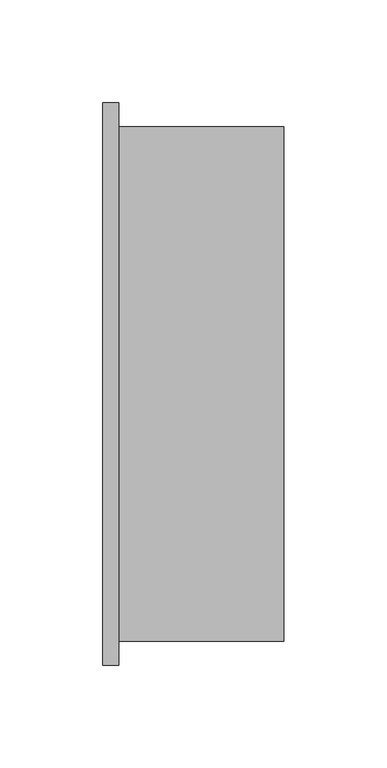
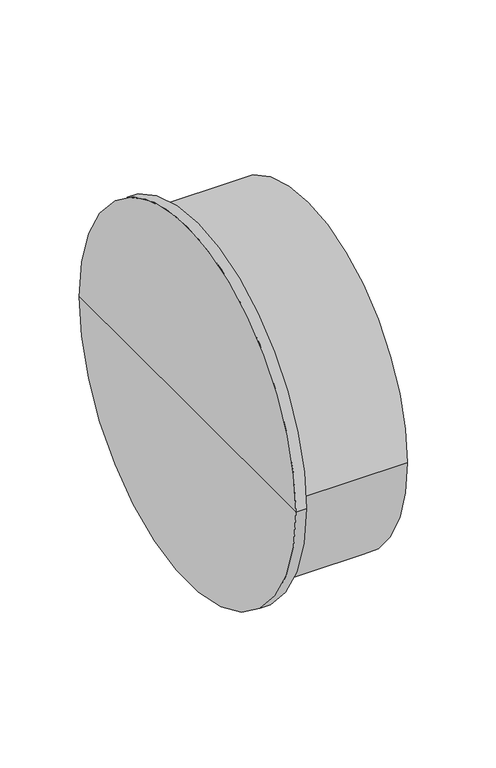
"""IFC4 building model written with IfcOpenShell, lengths in millimetres: pipe fitting geometry, OSMA_KG2000_PPKGM : Hrdlová zátka."""

from ifc_helpers import new_model, si_unit, frame, origin, place, context, project, spatial, circle_curve, source, transform, mapped, element, save
from ifc_brep_helpers import plane_surface, cylinder_surface, advanced_brep


def pipe_fitting_337543ad(model_context):
    return source(origin(), model_context, "Body", "AdvancedBrep", [
        advanced_brep(
        [(88.0, -125.0, 0.0), (88.0, 125.0, 0.0), (88.0, 0.0, 0.0), (7.7, -125.0, 0.0), (7.7, 125.0, 0.0), (7.7, -136.7, 0.0), (7.7, 136.7, 0.0), (0.0, -136.7, 0.0), (0.0, 136.7, 0.0), (0.0, 0.0, 0.0)],
        [
            (0, 1, circle_curve(frame((88.0, 0.0, 0.0), z_axis=(1.0, 0.0, 0.0), x_axis=(0.0, 1.0, 0.0)), 125.0)),
            (1, 2),
            (2, 0),
            (1, 0, circle_curve(frame((88.0, 0.0, 0.0), z_axis=(1.0, 0.0, 0.0), x_axis=(0.0, 1.0, 0.0)), 125.0)),
            (3, 4, circle_curve(frame((7.7, 0.0, 0.0), z_axis=(1.0, 0.0, 0.0), x_axis=(0.0, 1.0, 0.0)), 125.0)),
            (4, 1),
            (0, 3),
            (4, 3, circle_curve(frame((7.7, 0.0, 0.0), z_axis=(1.0, 0.0, 0.0), x_axis=(0.0, 1.0, 0.0)), 125.0)),
            (5, 6, circle_curve(frame((7.7, 0.0, 0.0), z_axis=(1.0, 0.0, 0.0), x_axis=(0.0, 1.0, 0.0)), 136.7)),
            (6, 4),
            (3, 5),
            (6, 5, circle_curve(frame((7.7, 0.0, 0.0), z_axis=(1.0, 0.0, 0.0), x_axis=(0.0, 1.0, 0.0)), 136.7)),
            (7, 8, circle_curve(frame((0.0, 0.0, 0.0), z_axis=(1.0, 0.0, 0.0), x_axis=(0.0, 1.0, 0.0)), 136.7)),
            (8, 6),
            (5, 7),
            (8, 7, circle_curve(frame((0.0, 0.0, 0.0), z_axis=(1.0, 0.0, 0.0), x_axis=(0.0, 1.0, 0.0)), 136.7)),
            (9, 8),
            (7, 9),
        ],
        [
            plane_surface(frame((88.0, 0.0, 0.0), z_axis=(1.0, 0.0, 0.0), x_axis=(0.0, 1.0, 0.0))),
            cylinder_surface(frame((2033.0, 0.0, 0.0), z_axis=(-1.0, 0.0, 0.0), x_axis=(0.0, 1.0, 0.0)), 125.0),
            plane_surface(frame((7.7, 0.0, 0.0), z_axis=(1.0, 0.0, 0.0), x_axis=(0.0, 1.0, 0.0))),
            cylinder_surface(frame((2033.0, 0.0, 0.0), z_axis=(-1.0, 0.0, 0.0), x_axis=(0.0, 1.0, 0.0)), 136.7),
            plane_surface(frame((0.0, 0.0, 0.0), z_axis=(-1.0, 0.0, 0.0), x_axis=(0.0, 1.0, 0.0))),
        ],
        [
            (0, [[1, 2, 3]]),
            (0, [[4, -3, -2]]),
            (1, [[5, 6, -1, 7]]),
            (1, [[8, -7, -4, -6]]),
            (2, [[9, 10, -5, 11]]),
            (2, [[12, -11, -8, -10]]),
            (3, [[13, 14, -9, 15]]),
            (3, [[16, -15, -12, -14]]),
            (4, [[17, -13, 18]]),
            (4, [[-18, -16, -17]]),
        ],
    ),
    ])


if __name__ == "__main__":
    model = new_model("IFC4")
    model_context = context("Model", 3, world=origin())
    ifc_project = project(units=[si_unit("LENGTHUNIT", "METRE", prefix="MILLI")], contexts=[model_context])
    site = spatial("IfcSite", under=ifc_project)
    building = spatial("IfcBuilding", under=site)
    placement = place(None, origin())
    pipe_fitting_shape = pipe_fitting_337543ad(model_context)
    element("IfcPipeFitting", 1, ObjectType="OSMA_KG2000_PPKGM : Hrdlová zátka", at=placement, inside=building, context=model_context, shape_type="MappedRepresentation", body=[
        mapped(pipe_fitting_shape, transform((0.0, 0.0, 0.0), x_axis=(1.0, 0.0, 0.0), y_axis=(0.0, 1.0, 0.0), z_axis=(0.0, 0.0, 1.0))),
    ])
    save(model, "model.ifc")
